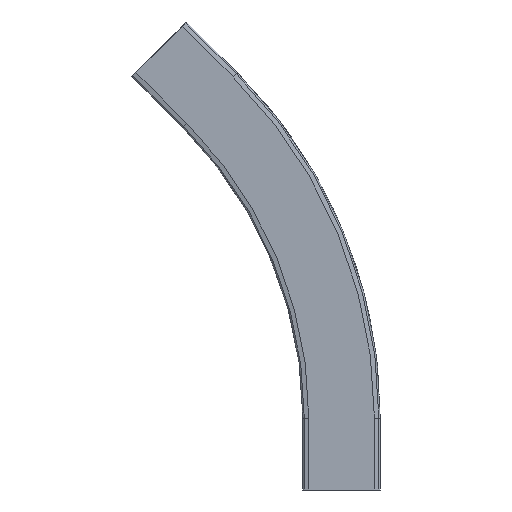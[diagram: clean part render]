
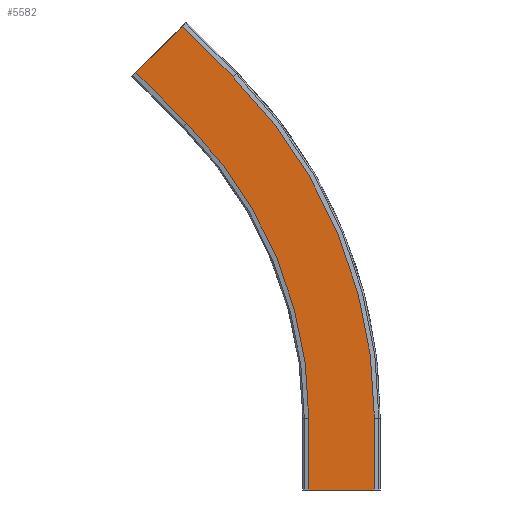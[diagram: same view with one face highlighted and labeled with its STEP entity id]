
A CAD part, front view. The second image highlights one B-rep face of the part: STEP entity #5582.
In plain terms, the highlighted planar face has unit normal (0, -1, 0).
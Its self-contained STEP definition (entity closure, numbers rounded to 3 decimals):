
#5213=CARTESIAN_POINT('',(36.5,-11.,0.0));
#5214=VERTEX_POINT('',#5213);
#5221=CARTESIAN_POINT('',(-36.5,-11.,0.0));
#5222=VERTEX_POINT('',#5221);
#5223=CARTESIAN_POINT('',(-36.5,-11.,0.0));
#5224=DIRECTION('',(1.0,0.0,0.0));
#5225=VECTOR('',#5224,73.);
#5226=LINE('',#5223,#5225);
#5227=EDGE_CURVE('',#5222,#5214,#5226,.T.);
#5293=CARTESIAN_POINT('',(-36.5,-11.,80.0));
#5294=VERTEX_POINT('',#5293);
#5308=CARTESIAN_POINT('',(-36.5,-11.,0.0));
#5309=DIRECTION('',(0.0,0.0,1.0));
#5310=VECTOR('',#5309,80.0);
#5311=LINE('',#5308,#5310);
#5312=EDGE_CURVE('',#5222,#5294,#5311,.T.);
#5322=CARTESIAN_POINT('',(36.5,-11.,80.0));
#5323=VERTEX_POINT('',#5322);
#5332=CARTESIAN_POINT('',(36.5,-11.,0.0));
#5333=DIRECTION('',(0.0,0.0,1.0));
#5334=VECTOR('',#5333,80.0);
#5335=LINE('',#5332,#5334);
#5336=EDGE_CURVE('',#5214,#5323,#5335,.T.);
#5409=CARTESIAN_POINT('',(-120.637,-11.,459.363));
#5410=VERTEX_POINT('',#5409);
#5419=CARTESIAN_POINT('',(-500.0,-11.,80.0));
#5420=DIRECTION('',(0.0,-1.0,0.0));
#5421=DIRECTION('',(1.0,0.0,0.0));
#5422=AXIS2_PLACEMENT_3D('',#5419,#5420,#5421);
#5423=CIRCLE('',#5422,536.5);
#5424=EDGE_CURVE('',#5323,#5410,#5423,.T.);
#5476=CARTESIAN_POINT('',(-172.256,-11.,407.744));
#5477=VERTEX_POINT('',#5476);
#5492=CARTESIAN_POINT('',(-500.0,-11.,80.0));
#5493=DIRECTION('',(0.0,-1.0,0.0));
#5494=DIRECTION('',(1.0,0.0,0.0));
#5495=AXIS2_PLACEMENT_3D('',#5492,#5493,#5494);
#5496=CIRCLE('',#5495,463.5);
#5497=EDGE_CURVE('',#5294,#5477,#5496,.T.);
#5536=CARTESIAN_POINT('',(-228.825,-11.,464.313));
#5537=VERTEX_POINT('',#5536);
#5546=CARTESIAN_POINT('',(-172.256,-11.,407.744));
#5547=DIRECTION('',(-0.707,0.,0.707));
#5548=VECTOR('',#5547,80.);
#5549=LINE('',#5546,#5548);
#5550=EDGE_CURVE('',#5477,#5537,#5549,.T.);
#5555=CARTESIAN_POINT('',(213.612,-11.,125.114));
#5556=DIRECTION('',(0.0,-1.0,0.0));
#5557=DIRECTION('',(0.707,0.0,-0.707));
#5558=AXIS2_PLACEMENT_3D('',#5555,#5556,#5557);
#5559=PLANE('',#5558);
#5560=CARTESIAN_POINT('',(-177.206,-11.,515.931));
#5561=VERTEX_POINT('',#5560);
#5562=CARTESIAN_POINT('',(-177.206,-11.,515.931));
#5563=DIRECTION('',(-0.707,0.,-0.707));
#5564=VECTOR('',#5563,73.);
#5565=LINE('',#5562,#5564);
#5566=EDGE_CURVE('',#5561,#5537,#5565,.T.);
#5567=ORIENTED_EDGE('',*,*,#5566,.T.);
#5568=ORIENTED_EDGE('',*,*,#5550,.F.);
#5569=ORIENTED_EDGE('',*,*,#5497,.F.);
#5570=ORIENTED_EDGE('',*,*,#5312,.F.);
#5571=ORIENTED_EDGE('',*,*,#5227,.T.);
#5572=ORIENTED_EDGE('',*,*,#5336,.T.);
#5573=ORIENTED_EDGE('',*,*,#5424,.T.);
#5574=CARTESIAN_POINT('',(-120.637,-11.,459.363));
#5575=DIRECTION('',(-0.707,0.,0.707));
#5576=VECTOR('',#5575,80.0);
#5577=LINE('',#5574,#5576);
#5578=EDGE_CURVE('',#5410,#5561,#5577,.T.);
#5579=ORIENTED_EDGE('',*,*,#5578,.T.);
#5580=EDGE_LOOP('',(#5567,#5568,#5569,#5570,#5571,#5572,#5573,#5579));
#5581=FACE_OUTER_BOUND('',#5580,.T.);
#5582=ADVANCED_FACE('',(#5581),#5559,.T.);
